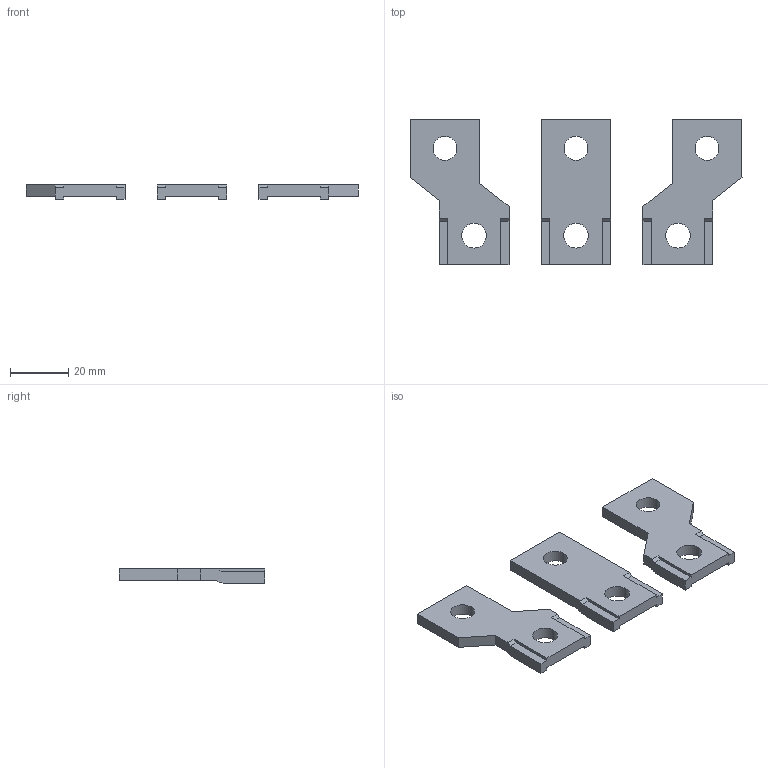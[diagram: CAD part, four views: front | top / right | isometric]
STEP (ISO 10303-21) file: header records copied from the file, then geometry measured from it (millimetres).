
FILE_DESCRIPTION (( 'STEP AP214' ), '1' );
FILE_NAME ('Ðàñøèðèòåëè ïîëþñîâ OptiMat D100, D160, D250 âåðõíèå.STEP', '2023-04-28T08:30:37', ( '' ), ( '' ), 'SwSTEP 2.0', 'SolidWorks 2018', '' );
FILE_SCHEMA (( 'AUTOMOTIVE_DESIGN' ));
Length unit declared in the file: millimetre
Products named in the file (1): Ðàñøèðèòåëè ïîëþñîâ OptiMat D100, D160, D250 âåðõíèå
Bounding box: 114 x 50 x 5 mm (x, y, z)
Volume: 12931.2 mm3; surface area: 9145.5 mm2
Topology: 3 solids, 3 shells, 74 faces, 204 edges, 136 vertices
Faces by surface type: plane 56, cylinder 18
Entity records: 3234 total; most frequent: CARTESIAN_POINT 415, ORIENTED_EDGE 408, DIRECTION 390, EDGE_CURVE 204, LINE 168, VECTOR 168, VERTEX_POINT 136, AXIS2_PLACEMENT_3D 111
